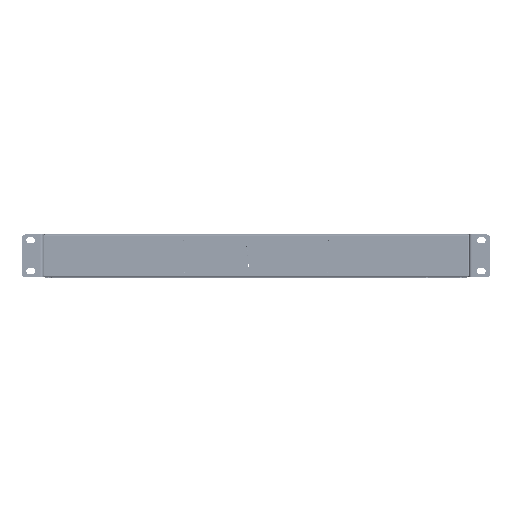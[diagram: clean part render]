
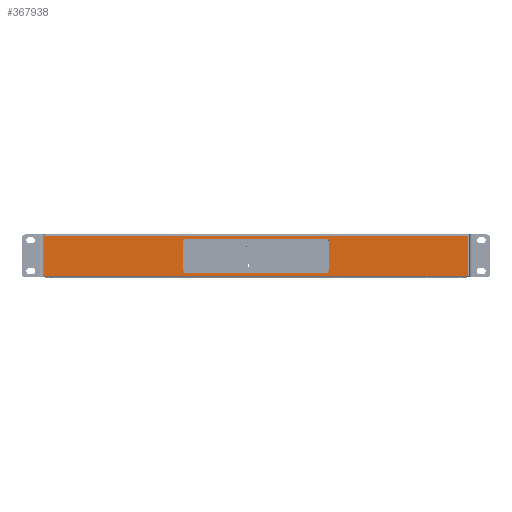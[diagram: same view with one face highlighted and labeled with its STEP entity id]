
A CAD part, top view. The second image highlights one B-rep face of the part: STEP entity #367938.
In plain terms, the highlighted planar face has unit normal (0, 0, 1).
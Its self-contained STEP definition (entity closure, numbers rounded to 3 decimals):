
#2141 = DIRECTION ( 'NONE',  ( 0., 0., 1. ) ) ;
#2309 = DIRECTION ( 'NONE',  ( -1., 0., 0. ) ) ;
#6950 = CARTESIAN_POINT ( 'NONE',  ( 72., 36.4, 305. ) ) ;
#13128 = VERTEX_POINT ( 'NONE', #391633 ) ;
#13716 = ORIENTED_EDGE ( 'NONE', *, *, #294124, .T. ) ;
#15154 = CARTESIAN_POINT ( 'NONE',  ( -75.3, 36.4, 305. ) ) ;
#28659 = CIRCLE ( 'NONE', #322658, 1. ) ;
#29476 = CIRCLE ( 'NONE', #172892, 1. ) ;
#29559 = EDGE_CURVE ( 'NONE', #358979, #13128, #133194, .T. ) ;
#33741 = VERTEX_POINT ( 'NONE', #66217 ) ;
#41376 = CARTESIAN_POINT ( 'NONE',  ( -72., 7.4, 305. ) ) ;
#47525 = DIRECTION ( 'NONE',  ( 0., 0., -1. ) ) ;
#49777 = VECTOR ( 'NONE', #310261, 1000. ) ;
#52602 = VECTOR ( 'NONE', #194508, 1000. ) ;
#66217 = CARTESIAN_POINT ( 'NONE',  ( 218., 1., 305. ) ) ;
#82465 = DIRECTION ( 'NONE',  ( -1., 0., 0. ) ) ;
#93339 = DIRECTION ( 'NONE',  ( 0., 1., 0. ) ) ;
#95486 = CARTESIAN_POINT ( 'NONE',  ( 75.3, 36.4, 305. ) ) ;
#96871 = CARTESIAN_POINT ( 'NONE',  ( -75.3, 36.4, 305. ) ) ;
#98973 = CIRCLE ( 'NONE', #415845, 3.3 ) ;
#111849 = VECTOR ( 'NONE', #243793, 1000. ) ;
#112867 = CIRCLE ( 'NONE', #414552, 1. ) ;
#115493 = CARTESIAN_POINT ( 'NONE',  ( 218., 2., 305. ) ) ;
#123117 = CARTESIAN_POINT ( 'NONE',  ( -72., 36.4, 305. ) ) ;
#127430 = CARTESIAN_POINT ( 'NONE',  ( 72., 39.7, 305. ) ) ;
#128264 = EDGE_CURVE ( 'NONE', #260125, #279990, #215131, .T. ) ;
#129742 = DIRECTION ( 'NONE',  ( 1., 0., 0. ) ) ;
#130497 = ORIENTED_EDGE ( 'NONE', *, *, #128264, .T. ) ;
#130537 = CARTESIAN_POINT ( 'NONE',  ( -218., 42.8, 305. ) ) ;
#133194 = LINE ( 'NONE', #274870, #49777 ) ;
#136290 = VERTEX_POINT ( 'NONE', #15154 ) ;
#137908 = VERTEX_POINT ( 'NONE', #406292 ) ;
#142521 = DIRECTION ( 'NONE',  ( -1., 0., 0. ) ) ;
#145374 = VERTEX_POINT ( 'NONE', #320953 ) ;
#147727 = CARTESIAN_POINT ( 'NONE',  ( 218., 42.8, 305. ) ) ;
#149572 = ORIENTED_EDGE ( 'NONE', *, *, #374721, .T. ) ;
#161427 = ORIENTED_EDGE ( 'NONE', *, *, #240367, .T. ) ;
#162556 = ORIENTED_EDGE ( 'NONE', *, *, #193159, .T. ) ;
#164391 = CIRCLE ( 'NONE', #376441, 1. ) ;
#166601 = EDGE_CURVE ( 'NONE', #404767, #358979, #414715, .T. ) ;
#172892 = AXIS2_PLACEMENT_3D ( 'NONE', #184957, #182605, #142521 ) ;
#182605 = DIRECTION ( 'NONE',  ( 0., 0., 1. ) ) ;
#183181 = DIRECTION ( 'NONE',  ( -1., 0., 0. ) ) ;
#183788 = AXIS2_PLACEMENT_3D ( 'NONE', #123117, #47525, #444317 ) ;
#184957 = CARTESIAN_POINT ( 'NONE',  ( 218., 2., 305. ) ) ;
#187461 = DIRECTION ( 'NONE',  ( -1., 0., 0. ) ) ;
#191648 = EDGE_CURVE ( 'NONE', #263449, #145374, #392522, .T. ) ;
#193159 = EDGE_CURVE ( 'NONE', #205661, #263449, #112867, .T. ) ;
#194508 = DIRECTION ( 'NONE',  ( 1., 0., 0. ) ) ;
#195994 = AXIS2_PLACEMENT_3D ( 'NONE', #369226, #222898, #187461 ) ;
#196316 = VERTEX_POINT ( 'NONE', #238263 ) ;
#200618 = EDGE_CURVE ( 'NONE', #402438, #205661, #416897, .T. ) ;
#203305 = ORIENTED_EDGE ( 'NONE', *, *, #252360, .T. ) ;
#205609 = CARTESIAN_POINT ( 'NONE',  ( 219., 2., 305. ) ) ;
#205661 = VERTEX_POINT ( 'NONE', #273779 ) ;
#208823 = EDGE_LOOP ( 'NONE', ( #330596, #396826, #203305, #459948, #130497, #437249, #149572, #263853 ) ) ;
#208992 = CARTESIAN_POINT ( 'NONE',  ( 219., 41.8, 305. ) ) ;
#209144 = CARTESIAN_POINT ( 'NONE',  ( -219., 2., 305. ) ) ;
#211289 = LINE ( 'NONE', #350656, #244246 ) ;
#214235 = VECTOR ( 'NONE', #129742, 1000. ) ;
#215131 = LINE ( 'NONE', #127430, #214235 ) ;
#216654 = VECTOR ( 'NONE', #457182, 1000. ) ;
#222898 = DIRECTION ( 'NONE',  ( 0., 0., -1. ) ) ;
#226551 = DIRECTION ( 'NONE',  ( 0., 0., 1. ) ) ;
#227599 = CARTESIAN_POINT ( 'NONE',  ( 218., 1., 305. ) ) ;
#230711 = CARTESIAN_POINT ( 'NONE',  ( -219., 2., 305. ) ) ;
#231255 = ORIENTED_EDGE ( 'NONE', *, *, #200618, .T. ) ;
#238263 = CARTESIAN_POINT ( 'NONE',  ( -75.3, 7.4, 305. ) ) ;
#240367 = EDGE_CURVE ( 'NONE', #371575, #33741, #336160, .T. ) ;
#243793 = DIRECTION ( 'NONE',  ( -1., 0., 0. ) ) ;
#244246 = VECTOR ( 'NONE', #317497, 1000. ) ;
#252360 = EDGE_CURVE ( 'NONE', #196316, #136290, #415764, .T. ) ;
#255031 = DIRECTION ( 'NONE',  ( 0., 0., -1. ) ) ;
#257657 = ORIENTED_EDGE ( 'NONE', *, *, #270186, .T. ) ;
#259530 = FACE_OUTER_BOUND ( 'NONE', #306620, .T. ) ;
#259822 = VERTEX_POINT ( 'NONE', #230711 ) ;
#260125 = VERTEX_POINT ( 'NONE', #309639 ) ;
#261839 = PLANE ( 'NONE',  #352880 ) ;
#263449 = VERTEX_POINT ( 'NONE', #147727 ) ;
#263853 = ORIENTED_EDGE ( 'NONE', *, *, #166601, .T. ) ;
#270186 = EDGE_CURVE ( 'NONE', #145374, #137908, #28659, .T. ) ;
#273779 = CARTESIAN_POINT ( 'NONE',  ( 219., 41.8, 305. ) ) ;
#274870 = CARTESIAN_POINT ( 'NONE',  ( -72., 4.1, 305. ) ) ;
#279198 = EDGE_CURVE ( 'NONE', #33741, #402438, #29476, .T. ) ;
#279990 = VERTEX_POINT ( 'NONE', #367339 ) ;
#294124 = EDGE_CURVE ( 'NONE', #259822, #371575, #164391, .T. ) ;
#297376 = CARTESIAN_POINT ( 'NONE',  ( 218., 41.8, 305. ) ) ;
#300821 = CARTESIAN_POINT ( 'NONE',  ( 75.3, 7.4, 305. ) ) ;
#304685 = CARTESIAN_POINT ( 'NONE',  ( -218., 41.8, 305. ) ) ;
#306620 = EDGE_LOOP ( 'NONE', ( #13716, #161427, #453133, #231255, #162556, #347450, #257657, #336883 ) ) ;
#307086 = DIRECTION ( 'NONE',  ( 0., 1., 0. ) ) ;
#309639 = CARTESIAN_POINT ( 'NONE',  ( -72., 39.7, 305. ) ) ;
#310261 = DIRECTION ( 'NONE',  ( -1., 0., 0. ) ) ;
#312427 = CARTESIAN_POINT ( 'NONE',  ( -218., 1., 305. ) ) ;
#317497 = DIRECTION ( 'NONE',  ( 0., -1., 0. ) ) ;
#320953 = CARTESIAN_POINT ( 'NONE',  ( -218., 42.8, 305. ) ) ;
#322658 = AXIS2_PLACEMENT_3D ( 'NONE', #304685, #382585, #448819 ) ;
#324812 = DIRECTION ( 'NONE',  ( 0., 0., -1. ) ) ;
#330059 = EDGE_CURVE ( 'NONE', #13128, #196316, #98973, .T. ) ;
#330596 = ORIENTED_EDGE ( 'NONE', *, *, #29559, .T. ) ;
#336160 = LINE ( 'NONE', #227599, #52602 ) ;
#336883 = ORIENTED_EDGE ( 'NONE', *, *, #448332, .T. ) ;
#344189 = VERTEX_POINT ( 'NONE', #95486 ) ;
#347450 = ORIENTED_EDGE ( 'NONE', *, *, #191648, .T. ) ;
#350656 = CARTESIAN_POINT ( 'NONE',  ( 75.3, 7.4, 305. ) ) ;
#352880 = AXIS2_PLACEMENT_3D ( 'NONE', #115493, #2141, #403612 ) ;
#358979 = VERTEX_POINT ( 'NONE', #413130 ) ;
#363481 = FACE_BOUND ( 'NONE', #208823, .T. ) ;
#367339 = CARTESIAN_POINT ( 'NONE',  ( 72., 39.7, 305. ) ) ;
#367938 = ADVANCED_FACE ( 'NONE', ( #363481, #259530 ), #261839, .T. ) ;
#369226 = CARTESIAN_POINT ( 'NONE',  ( 72., 7.4, 305. ) ) ;
#371575 = VERTEX_POINT ( 'NONE', #312427 ) ;
#374721 = EDGE_CURVE ( 'NONE', #344189, #404767, #211289, .T. ) ;
#376441 = AXIS2_PLACEMENT_3D ( 'NONE', #377241, #445787, #414984 ) ;
#377241 = CARTESIAN_POINT ( 'NONE',  ( -218., 2., 305. ) ) ;
#382213 = AXIS2_PLACEMENT_3D ( 'NONE', #6950, #255031, #2309 ) ;
#382585 = DIRECTION ( 'NONE',  ( 0., 0., 1. ) ) ;
#387395 = CIRCLE ( 'NONE', #183788, 3.3 ) ;
#391633 = CARTESIAN_POINT ( 'NONE',  ( -72., 4.1, 305. ) ) ;
#392522 = LINE ( 'NONE', #130537, #111849 ) ;
#396574 = EDGE_CURVE ( 'NONE', #136290, #260125, #387395, .T. ) ;
#396826 = ORIENTED_EDGE ( 'NONE', *, *, #330059, .T. ) ;
#402438 = VERTEX_POINT ( 'NONE', #205609 ) ;
#403612 = DIRECTION ( 'NONE',  ( -1., 0., 0. ) ) ;
#404767 = VERTEX_POINT ( 'NONE', #300821 ) ;
#406292 = CARTESIAN_POINT ( 'NONE',  ( -219., 41.8, 305. ) ) ;
#413130 = CARTESIAN_POINT ( 'NONE',  ( 72., 4.1, 305. ) ) ;
#414552 = AXIS2_PLACEMENT_3D ( 'NONE', #297376, #226551, #82465 ) ;
#414715 = CIRCLE ( 'NONE', #195994, 3.3 ) ;
#414984 = DIRECTION ( 'NONE',  ( -1., 0., 0. ) ) ;
#415764 = LINE ( 'NONE', #96871, #422397 ) ;
#415845 = AXIS2_PLACEMENT_3D ( 'NONE', #41376, #324812, #183181 ) ;
#416897 = LINE ( 'NONE', #208992, #441816 ) ;
#421970 = EDGE_CURVE ( 'NONE', #279990, #344189, #442568, .T. ) ;
#422397 = VECTOR ( 'NONE', #307086, 1000. ) ;
#437249 = ORIENTED_EDGE ( 'NONE', *, *, #421970, .T. ) ;
#440902 = LINE ( 'NONE', #209144, #216654 ) ;
#441816 = VECTOR ( 'NONE', #93339, 1000. ) ;
#442568 = CIRCLE ( 'NONE', #382213, 3.3 ) ;
#444317 = DIRECTION ( 'NONE',  ( -1., 0., 0. ) ) ;
#445787 = DIRECTION ( 'NONE',  ( 0., 0., 1. ) ) ;
#448332 = EDGE_CURVE ( 'NONE', #137908, #259822, #440902, .T. ) ;
#448819 = DIRECTION ( 'NONE',  ( -1., 0., 0. ) ) ;
#453133 = ORIENTED_EDGE ( 'NONE', *, *, #279198, .T. ) ;
#457182 = DIRECTION ( 'NONE',  ( 0., -1., 0. ) ) ;
#459948 = ORIENTED_EDGE ( 'NONE', *, *, #396574, .T. ) ;
